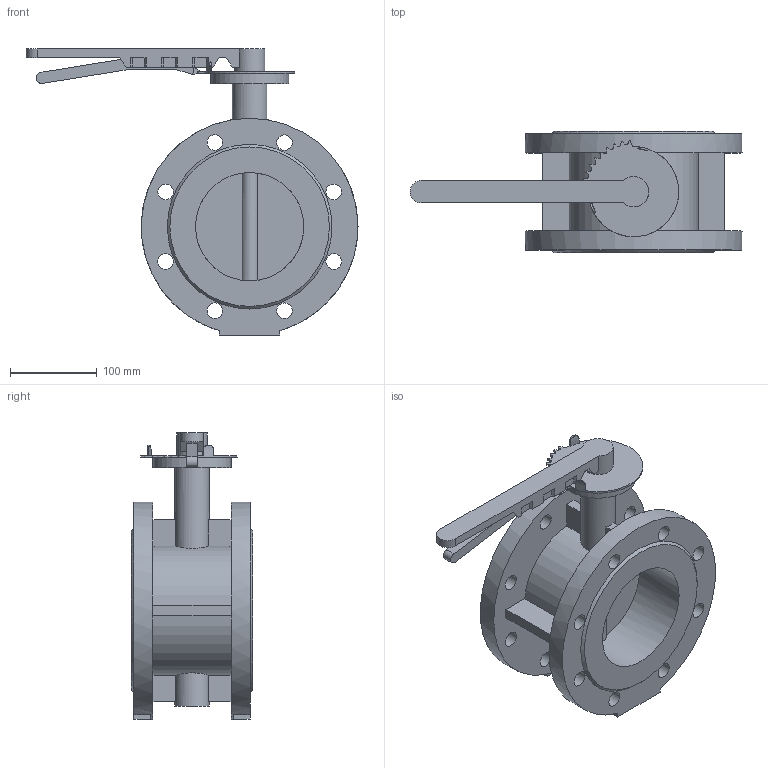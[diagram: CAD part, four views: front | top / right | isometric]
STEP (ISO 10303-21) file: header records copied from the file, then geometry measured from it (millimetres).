
FILE_DESCRIPTION(('STEP AP203'), '1');
FILE_NAME('Çàòâîð 021F.Y DN125 +ðóêîÿòêà', '', ('UNSPECIFIED'), ('UNSPECIFIED'), 'ASCON STEP Converter 1.6', 'ASCON Math Kernel', '');
FILE_SCHEMA(('CONFIG_CONTROL_DESIGN'));
Length unit declared in the file: millimetre
Bounding box: 383 x 140 x 330 mm (x, y, z)
Volume: 2719764 mm3; surface area: 383610.7 mm2
Topology: 1 solids, 1 shells, 193 faces, 533 edges, 352 vertices
Faces by surface type: plane 125, cylinder 66, cone 2
Full cylindrical faces by diameter (mm): 10 x4, 18 x16, 35 x1, 40 x2, 90 x1, 125 x2, 250 x2
Entity records: 8765 total; most frequent: CARTESIAN_POINT 2224, DIRECTION 1007, ORIENTED_EDGE 1006, EDGE_CURVE 503, VERTEX_POINT 352, AXIS2_PLACEMENT_3D 336, LINE 335, VECTOR 335
